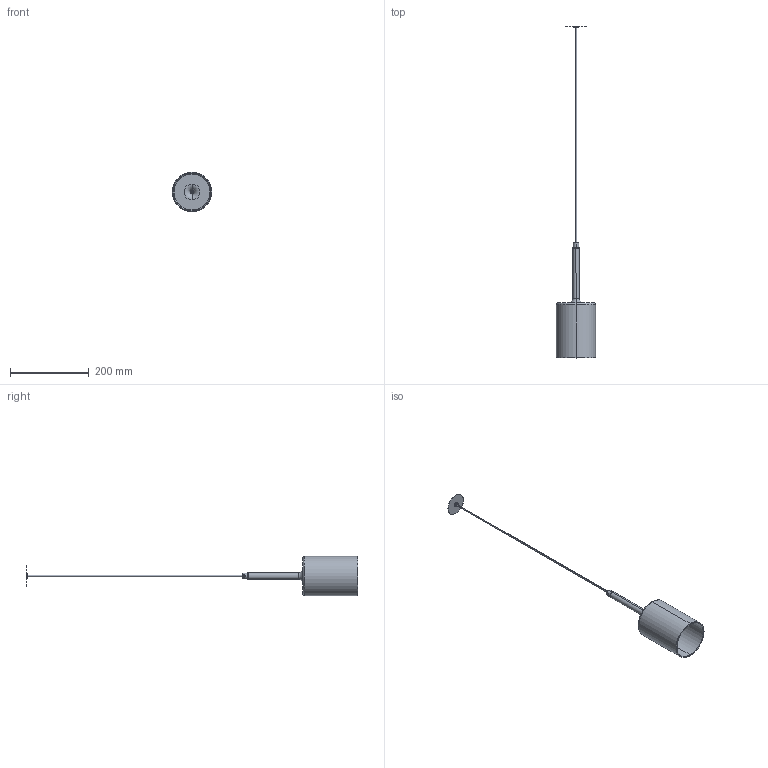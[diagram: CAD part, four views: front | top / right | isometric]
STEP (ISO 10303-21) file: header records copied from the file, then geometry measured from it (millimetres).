
FILE_DESCRIPTION (( 'STEP AP203' ), '1' );
FILE_NAME ('SPSPILM01IXXXXX-PER 3D.STEP', '2025-06-25T14:00:12', ( '' ), ( '' ), 'SwSTEP 2.0', 'SolidWorks 2024', '' );
FILE_SCHEMA (( 'CONFIG_CONTROL_DESIGN' ));
Length unit declared in the file: millimetre
Products named in the file (9): WSCM2C0165-0100-00; CAVO NL2CN_CAVO NL2CN; WSCM2A0119-0700-00; VSPILLRAYMCS; SPSPILM01IXXXXX-PER 3D; WSA5068-03-6-2-5--; WSM2G1522-FR------; WSASS-000000047-00; PENDENTE SPILLRAY EVO M-00
Assembly tree (8 placements, depth 3):
  SPSPILM01IXXXXX-PER 3D
    WSASS-000000047-00
      WSCM2C0165-0100-00
      WSM2G1522-FR------
    PENDENTE SPILLRAY EVO M-00
      WSCM2A0119-0700-00
      WSA5068-03-6-2-5--
      CAVO NL2CN_CAVO NL2CN
      VSPILLRAYMCS
Bounding box: 100 x 842.42 x 100 mm (x, y, z)
Volume: 179088.4 mm3; surface area: 132296.8 mm2
Topology: 9 solids, 9 shells, 132 faces, 262 edges, 154 vertices
Faces by surface type: cylinder 48, plane 38, torus 24, cone 20, bspline 2
Entity records: 4609 total; most frequent: CARTESIAN_POINT 811, DIRECTION 690, ORIENTED_EDGE 524, AXIS2_PLACEMENT_3D 293, EDGE_CURVE 262, VERTEX_POINT 154, CIRCLE 150, EDGE_LOOP 148
